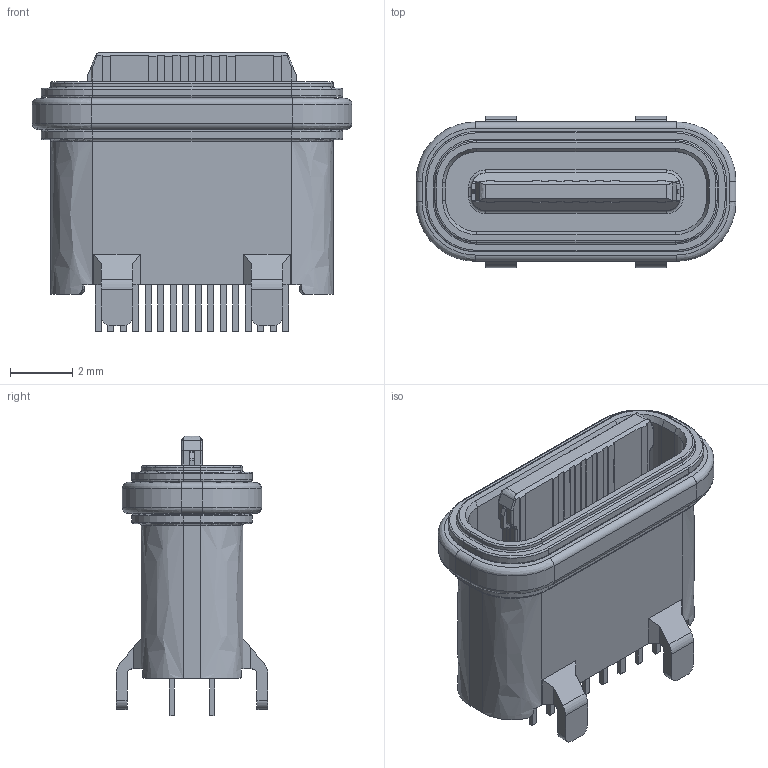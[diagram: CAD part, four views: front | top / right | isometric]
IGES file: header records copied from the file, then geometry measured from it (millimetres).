
Start section:  PTC IGES file: ATCF-16-013.igs
Global section: file name: ATCF-16-013.igs; native system: Creo Parametric by PTC Inc.; preprocessor: 2019080; author: Administrator; organization: Unknown; date: 20230417.111043; units: millimetre
Bounding box: 10.24 x 4.85 x 8.95 mm (x, y, z)
Surface area: 428.1 mm2 (no closed solid volume)
Topology: 0 solids, 0 shells, 506 faces, 2640 edges, 2640 vertices
Faces by surface type: bspline 296, revolution 210
